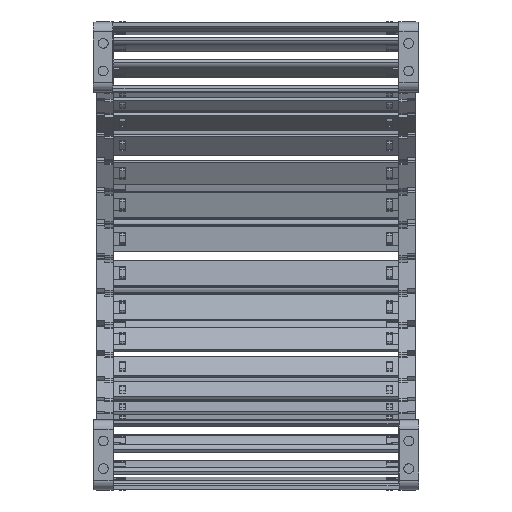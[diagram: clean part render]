
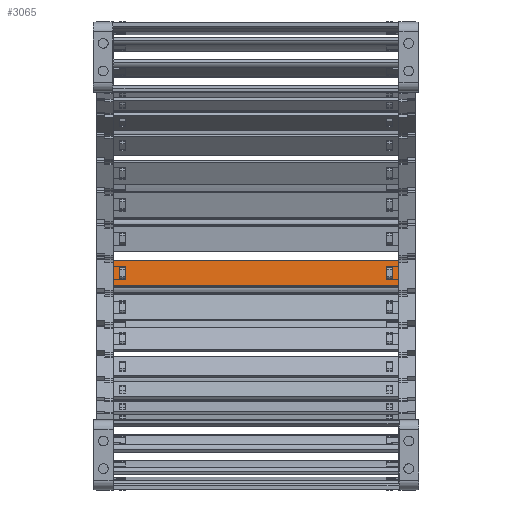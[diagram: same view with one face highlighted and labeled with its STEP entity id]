
A CAD part, left-side view. The second image highlights one B-rep face of the part: STEP entity #3065.
In plain terms, the highlighted planar face has unit normal (-0.995, 0, 0.104) as drawn and (0, 1, 0) by its records, which use the part's own axes.
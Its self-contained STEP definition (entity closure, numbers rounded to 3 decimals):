
#2485=DIRECTION('',(0.,0.,1.));
#2486=VECTOR('',#2485,15.8);
#2487=CARTESIAN_POINT('',(161.24,1.5,-7.9));
#2488=LINE('',#2487,#2486);
#2489=DIRECTION('',(-1.,0.,0.));
#2490=VECTOR('',#2489,176.);
#2491=CARTESIAN_POINT('',(161.24,1.5,7.9));
#2492=LINE('',#2491,#2490);
#2493=DIRECTION('',(0.,0.,-1.));
#2494=VECTOR('',#2493,15.8);
#2495=CARTESIAN_POINT('',(-14.76,1.5,7.9));
#2496=LINE('',#2495,#2494);
#2497=DIRECTION('',(1.,0.,0.));
#2498=VECTOR('',#2497,3.648);
#2499=CARTESIAN_POINT('',(153.622,1.5,4.075));
#2500=LINE('',#2499,#2498);
#2501=DIRECTION('',(0.,0.,-1.));
#2502=VECTOR('',#2501,8.15);
#2503=CARTESIAN_POINT('',(157.27,1.5,4.075));
#2504=LINE('',#2503,#2502);
#2505=DIRECTION('',(-1.,0.,0.));
#2506=VECTOR('',#2505,3.648);
#2507=CARTESIAN_POINT('',(157.27,1.5,-4.075));
#2508=LINE('',#2507,#2506);
#2509=DIRECTION('',(0.,0.,-1.));
#2510=VECTOR('',#2509,8.15);
#2511=CARTESIAN_POINT('',(-7.142,1.5,4.075));
#2512=LINE('',#2511,#2510);
#2513=DIRECTION('',(-1.,0.,0.));
#2514=VECTOR('',#2513,3.648);
#2515=CARTESIAN_POINT('',(-7.142,1.5,-4.075));
#2516=LINE('',#2515,#2514);
#2517=DIRECTION('',(0.,0.,1.));
#2518=VECTOR('',#2517,8.15);
#2519=CARTESIAN_POINT('',(-10.79,1.5,-4.075));
#2520=LINE('',#2519,#2518);
#2521=DIRECTION('',(1.,0.,0.));
#2522=VECTOR('',#2521,3.648);
#2523=CARTESIAN_POINT('',(-10.79,1.5,4.075));
#2524=LINE('',#2523,#2522);
#2529=DIRECTION('',(-1.,0.,0.));
#2530=VECTOR('',#2529,176.);
#2531=CARTESIAN_POINT('',(161.24,1.5,-7.9));
#2532=LINE('',#2531,#2530);
#2650=DIRECTION('',(0.,0.,-1.));
#2651=VECTOR('',#2650,8.15);
#2652=CARTESIAN_POINT('',(153.622,1.5,4.075));
#2653=LINE('',#2652,#2651);
#2835=CARTESIAN_POINT('',(157.27,1.5,4.075));
#2836=VERTEX_POINT('',#2835);
#2837=CARTESIAN_POINT('',(153.622,1.5,4.075));
#2838=VERTEX_POINT('',#2837);
#2879=CARTESIAN_POINT('',(153.622,1.5,-4.075));
#2880=VERTEX_POINT('',#2879);
#2881=CARTESIAN_POINT('',(157.27,1.5,-4.075));
#2882=VERTEX_POINT('',#2881);
#2883=CARTESIAN_POINT('',(161.24,1.5,7.9));
#2885=VERTEX_POINT('',#2883);
#2887=CARTESIAN_POINT('',(161.24,1.5,-7.9));
#2888=VERTEX_POINT('',#2887);
#2911=CARTESIAN_POINT('',(-7.142,1.5,4.075));
#2912=CARTESIAN_POINT('',(-7.142,1.5,-4.075));
#2913=VERTEX_POINT('',#2911);
#2914=VERTEX_POINT('',#2912);
#2915=CARTESIAN_POINT('',(-10.79,1.5,-4.075));
#2916=VERTEX_POINT('',#2915);
#2917=CARTESIAN_POINT('',(-10.79,1.5,4.075));
#2918=VERTEX_POINT('',#2917);
#2919=CARTESIAN_POINT('',(-14.76,1.5,7.9));
#2920=VERTEX_POINT('',#2919);
#2923=CARTESIAN_POINT('',(-14.76,1.5,-7.9));
#2924=VERTEX_POINT('',#2923);
#3034=CARTESIAN_POINT('',(192.98,1.5,10.061));
#3035=DIRECTION('',(0.,-1.,0.));
#3036=DIRECTION('',(0.,0.,-1.));
#3037=AXIS2_PLACEMENT_3D('',#3034,#3035,#3036);
#3038=PLANE('',#3037);
#3039=ORIENTED_EDGE('',*,*,#2973,.T.);
#3040=ORIENTED_EDGE('',*,*,#2999,.T.);
#3041=ORIENTED_EDGE('',*,*,#3012,.T.);
#3043=ORIENTED_EDGE('',*,*,#3042,.F.);
#3044=EDGE_LOOP('',(#3039,#3040,#3041,#3043));
#3045=FACE_OUTER_BOUND('',#3044,.F.);
#3047=ORIENTED_EDGE('',*,*,#3046,.F.);
#3048=ORIENTED_EDGE('',*,*,#2936,.T.);
#3050=ORIENTED_EDGE('',*,*,#3049,.T.);
#3052=ORIENTED_EDGE('',*,*,#3051,.T.);
#3053=EDGE_LOOP('',(#3047,#3048,#3050,#3052));
#3054=FACE_BOUND('',#3053,.F.);
#3056=ORIENTED_EDGE('',*,*,#3055,.T.);
#3058=ORIENTED_EDGE('',*,*,#3057,.T.);
#3060=ORIENTED_EDGE('',*,*,#3059,.T.);
#3062=ORIENTED_EDGE('',*,*,#3061,.T.);
#3063=EDGE_LOOP('',(#3056,#3058,#3060,#3062));
#3064=FACE_BOUND('',#3063,.F.);
#3065=ADVANCED_FACE('',(#3045,#3054,#3064),#3038,.F.);
#2936=EDGE_CURVE('',#2838,#2836,#2500,.T.);
#2973=EDGE_CURVE('',#2888,#2885,#2488,.T.);
#2999=EDGE_CURVE('',#2885,#2920,#2492,.T.);
#3012=EDGE_CURVE('',#2920,#2924,#2496,.T.);
#3042=EDGE_CURVE('',#2888,#2924,#2532,.T.);
#3046=EDGE_CURVE('',#2838,#2880,#2653,.T.);
#3049=EDGE_CURVE('',#2836,#2882,#2504,.T.);
#3051=EDGE_CURVE('',#2882,#2880,#2508,.T.);
#3055=EDGE_CURVE('',#2913,#2914,#2512,.T.);
#3057=EDGE_CURVE('',#2914,#2916,#2516,.T.);
#3059=EDGE_CURVE('',#2916,#2918,#2520,.T.);
#3061=EDGE_CURVE('',#2918,#2913,#2524,.T.);
